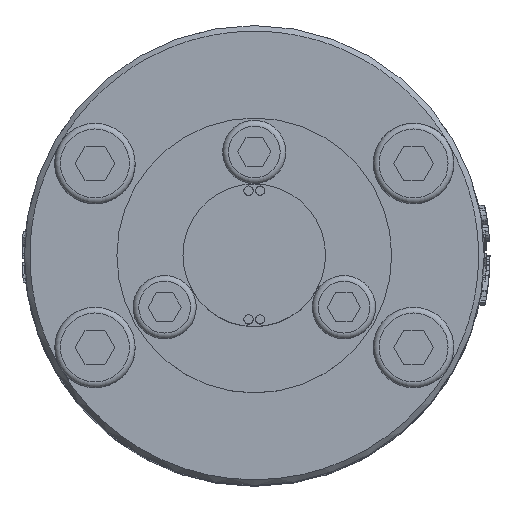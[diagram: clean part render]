
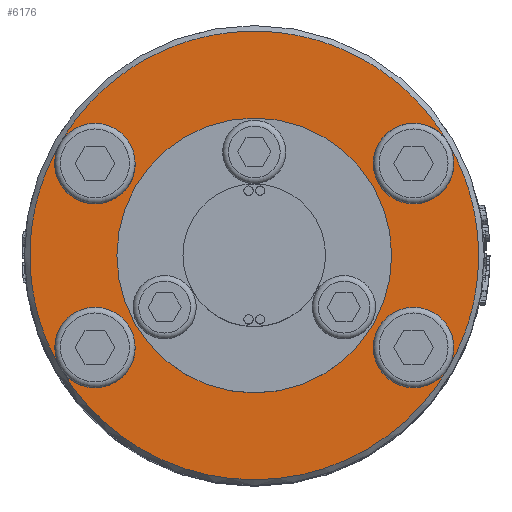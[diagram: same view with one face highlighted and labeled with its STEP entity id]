
A CAD part, top view. The second image highlights one B-rep face of the part: STEP entity #6176.
In plain terms, the highlighted planar face has unit normal (0, 0, 1).
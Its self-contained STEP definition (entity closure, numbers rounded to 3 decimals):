
#6176=ADVANCED_FACE('',(#7799,#7800),#7308,.T.);
#7308=PLANE('',#20671);
#7799=FACE_BOUND('',#8162,.T.);
#7800=FACE_BOUND('',#8163,.T.);
#8162=EDGE_LOOP('',(#9622,#9623,#9624,#9625,#9626,#9627,#9628,#9629));
#8163=EDGE_LOOP('',(#9630));
#9622=ORIENTED_EDGE('',*,*,#17500,.T.);
#9623=ORIENTED_EDGE('',*,*,#17420,.F.);
#9624=ORIENTED_EDGE('',*,*,#17499,.T.);
#9625=ORIENTED_EDGE('',*,*,#17483,.F.);
#9626=ORIENTED_EDGE('',*,*,#17498,.T.);
#9627=ORIENTED_EDGE('',*,*,#17462,.F.);
#9628=ORIENTED_EDGE('',*,*,#17501,.T.);
#9629=ORIENTED_EDGE('',*,*,#17441,.F.);
#9630=ORIENTED_EDGE('',*,*,#17407,.F.);
#15383=VERTEX_POINT('',#24343);
#15396=VERTEX_POINT('',#24379);
#15411=VERTEX_POINT('',#24425);
#15426=VERTEX_POINT('',#24471);
#15441=VERTEX_POINT('',#24517);
#17407=EDGE_CURVE('',#15383,#15383,#20382,.T.);
#17420=EDGE_CURVE('',#15396,#15396,#20389,.T.);
#17441=EDGE_CURVE('',#15411,#15411,#20392,.T.);
#17462=EDGE_CURVE('',#15426,#15426,#20395,.T.);
#17483=EDGE_CURVE('',#15441,#15441,#20398,.T.);
#17498=EDGE_CURVE('',#15441,#15426,#20401,.T.);
#17499=EDGE_CURVE('',#15396,#15441,#20402,.T.);
#17500=EDGE_CURVE('',#15411,#15396,#20403,.T.);
#17501=EDGE_CURVE('',#15426,#15411,#20404,.T.);
#20382=CIRCLE('',#20595,11.95);
#20389=CIRCLE('',#20612,3.5);
#20392=CIRCLE('',#20625,3.5);
#20395=CIRCLE('',#20638,3.5);
#20398=CIRCLE('',#20651,3.5);
#20401=CIRCLE('',#20664,19.5);
#20402=CIRCLE('',#20665,19.5);
#20403=CIRCLE('',#20666,19.5);
#20404=CIRCLE('',#20667,19.5);
#20595=AXIS2_PLACEMENT_3D('',#24342,#21495,#21496);
#20612=AXIS2_PLACEMENT_3D('',#24378,#21535,#21536);
#20625=AXIS2_PLACEMENT_3D('',#24424,#21579,#21580);
#20638=AXIS2_PLACEMENT_3D('',#24470,#21623,#21624);
#20651=AXIS2_PLACEMENT_3D('',#24516,#21667,#21668);
#20664=AXIS2_PLACEMENT_3D('',#24550,#21705,#21706);
#20665=AXIS2_PLACEMENT_3D('',#24551,#21707,#21708);
#20666=AXIS2_PLACEMENT_3D('',#24552,#21709,#21710);
#20667=AXIS2_PLACEMENT_3D('',#24553,#21711,#21712);
#20671=AXIS2_PLACEMENT_3D('',#24558,#21719,#21720);
#21495=DIRECTION('',(0.,0.,1.));
#21496=DIRECTION('',(0.,1.,0.));
#21535=DIRECTION('',(0.,0.,1.));
#21536=DIRECTION('',(1.,0.,0.));
#21579=DIRECTION('',(0.,0.,1.));
#21580=DIRECTION('',(1.,0.,0.));
#21623=DIRECTION('',(0.,0.,1.));
#21624=DIRECTION('',(1.,0.,0.));
#21667=DIRECTION('',(0.,0.,1.));
#21668=DIRECTION('',(1.,0.,0.));
#21705=DIRECTION('',(0.,0.,1.));
#21706=DIRECTION('',(1.,0.,0.));
#21707=DIRECTION('',(0.,0.,1.));
#21708=DIRECTION('',(1.,0.,0.));
#21709=DIRECTION('',(0.,0.,1.));
#21710=DIRECTION('',(1.,0.,0.));
#21711=DIRECTION('',(0.,0.,1.));
#21712=DIRECTION('',(1.,0.,0.));
#21719=DIRECTION('',(0.,0.,1.));
#21720=DIRECTION('',(1.,0.,0.));
#24342=CARTESIAN_POINT('',(0.,0.,63.));
#24343=CARTESIAN_POINT('',(0.,11.95,63.));
#24378=CARTESIAN_POINT('',(13.856,8.,63.));
#24379=CARTESIAN_POINT('',(16.887,9.75,63.));
#24424=CARTESIAN_POINT('',(13.856,-8.,63.));
#24425=CARTESIAN_POINT('',(16.887,-9.75,63.));
#24470=CARTESIAN_POINT('',(-13.856,-8.,63.));
#24471=CARTESIAN_POINT('',(-16.887,-9.75,63.));
#24516=CARTESIAN_POINT('',(-13.856,8.,63.));
#24517=CARTESIAN_POINT('',(-16.887,9.75,63.));
#24550=CARTESIAN_POINT('',(0.,0.,63.));
#24551=CARTESIAN_POINT('',(0.,0.,63.));
#24552=CARTESIAN_POINT('',(0.,0.,63.));
#24553=CARTESIAN_POINT('',(0.,0.,63.));
#24558=CARTESIAN_POINT('',(0.,0.,63.));
